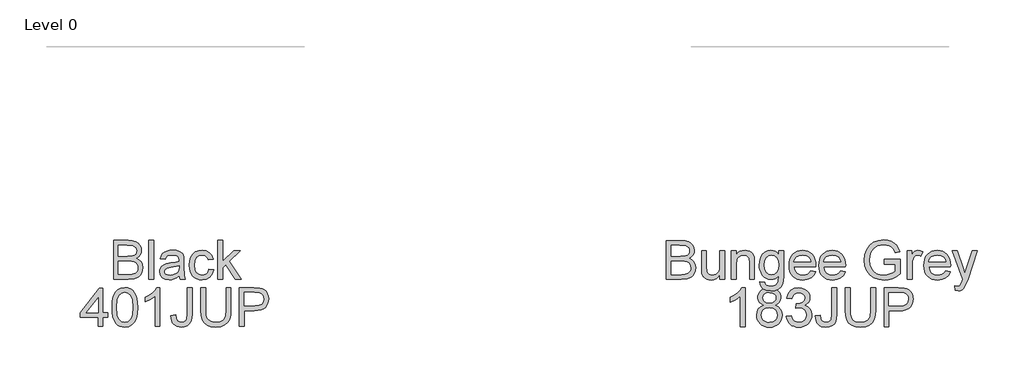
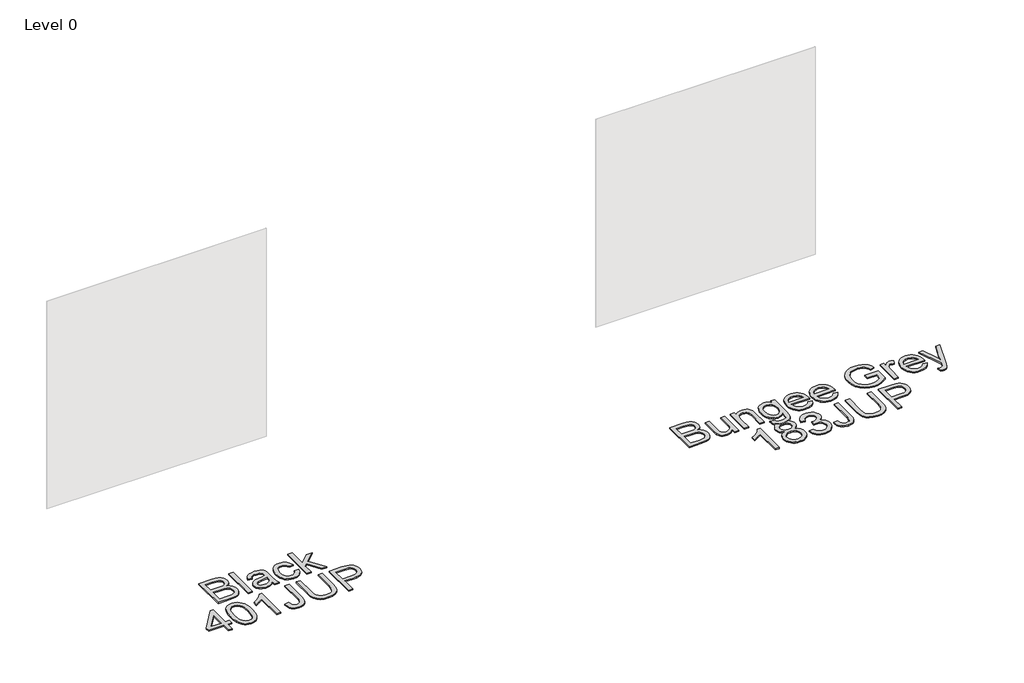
# One storey, part 33 of 37: 2 proxies.
"""IFC4 building model written with IfcOpenShell, lengths in millimetres."""

from ifc_helpers import new_model, si_unit, origin, origin_with_axes, place, context, project, spatial, polyline, outline, extrude, element, save

model = new_model("IFC4")

# Units and contexts
model_context = context("Model", 3, world=origin())
ifc_project = project(units=[si_unit("LENGTHUNIT", "METRE", prefix="MILLI")], contexts=[model_context])

# Site, building, storey
site = spatial("IfcSite", under=ifc_project)
building = spatial("IfcBuilding", under=site)
storey = spatial("IfcBuildingStorey", under=building, Name="Level 0", Elevation=0.0)

# Proxies
placement = place(None, origin())
element("IfcBuildingElementProxy", 1, Name="300mm Arial", ObjectType="300mm Arial", at=placement, inside=storey, context=model_context, shape_type="SweptSolid", body=[
    extrude(outline(polyline([(33069.0352108, -26963.860494), (33069.0352108, -26662.4915635), (33184.0351225, -26662.4915635), (33215.663777, -26664.7080526), (33240.3578559, -26671.3575196), (33259.2853846, -26682.6055116), (33273.6143883, -26698.6175755), (33282.6366942, -26717.4531336), (33285.6441296, -26737.1716086), (33283.1149408, -26755.317388), (33275.5273747, -26772.3779155), (33262.8262488, -26787.3047274), (33244.9563809, -26799.0493601), (33266.3027337, -26810.1961846), (33282.0756742, -26827.1555446), (33291.81535, -26848.8054), (33295.0619086, -26874.0237108), (33292.8454196, -26895.0389697), (33286.1959525, -26914.5275184), (33276.2723357, -26931.1006023), (33264.2333974, -26943.3694668), (33249.4905265, -26952.253817), (33231.4551117, -26958.6733578), (33183.1522057, -26963.860494), (33069.0352108, -26963.860494)]), holes=[polyline([(33106.7063271, -26784.9226915), (33175.5002602, -26784.9226915), (33215.6729741, -26781.68533), (33229.7352633, -26776.1027207), (33239.8428212, -26767.7426024), (33245.9404652, -26756.7337336), (33247.9730132, -26743.2048733), (33246.078421, -26730.071486), (33240.3946441, -26718.630356), (33231.1792002, -26709.7000206), (33218.6896064, -26704.0990172), (33170.2763359, -26700.1626798), (33106.7063271, -26700.1626798), (33106.7063271, -26784.9226915)]), polyline([(33106.7063271, -26926.1893777), (33183.9615461, -26926.1893777), (33211.9205777, -26924.7178497), (33235.57539, -26916.5140812), (33251.247163, -26899.7754504), (33255.854885, -26887.9480443), (33257.3907923, -26874.3915928), (33255.5881705, -26858.6462434), (33250.1803052, -26845.1081859), (33240.734935, -26834.5223815), (33226.8197985, -26827.6337912), (33207.1105206, -26823.8538037), (33180.2827261, -26822.5938078), (33106.7063271, -26822.5938078), (33106.7063271, -26926.1893777)])]), origin_with_axes(), (0.0, 0.0, 1.0), 10.0),
    extrude(outline(polyline([(33342.150804, -26963.860494), (33342.150804, -26662.4915635), (33379.8219203, -26662.4915635), (33379.8219203, -26963.860494), (33342.150804, -26963.860494)])), origin_with_axes(), (0.0, 0.0, 1.0), 10.0),
    extrude(outline(polyline([(33577.5952809, -26935.6071568), (33559.5966543, -26951.0398064), (33541.0645988, -26961.1381672), (33521.5760501, -26966.7115794), (33500.7079439, -26968.5693835), (33469.2264422, -26964.0996173), (33446.0038912, -26950.6903186), (33431.6840846, -26930.3280501), (33426.9108157, -26904.9993748), (33428.7134375, -26889.3827841), (33434.1213028, -26875.2009331), (33442.463027, -26863.0608273), (33453.0672256, -26853.5694718), (33479.4443646, -26841.2086368), (33512.0387094, -26835.5432541), (33550.5559543, -26829.5835657), (33577.3745517, -26822.5938078), (33577.5952809, -26814.2060983), (33575.0017129, -26797.3938912), (33567.2210087, -26786.3942195), (33549.8201903, -26778.2272392), (33525.5767668, -26775.5049125), (33503.1359651, -26777.3167313), (33487.4641921, -26782.7521878), (33476.7772201, -26792.8045633), (33469.2908215, -26808.4671392), (33431.6197052, -26803.7582497), (33438.1588077, -26783.156858), (33447.9168776, -26766.9700502), (33461.8044229, -26754.590821), (33480.7319516, -26745.4121652), (33503.8809261, -26739.7283884), (33530.4328091, -26737.8337961), (33555.8994403, -26739.5076592), (33576.0869647, -26744.5292485), (33591.3080823, -26752.0800264), (33601.8754926, -26761.3414556), (33608.8836446, -26772.7917827), (33613.4269873, -26786.9092543), (33615.2663972, -26819.8714811), (33615.2663972, -26866.7396473), (33617.1793836, -26932.1858542), (33624.6841763, -26963.860494), (33587.01306, -26963.860494), (33577.5952809, -26935.6071568)]), holes=[polyline([(33577.5952809, -26860.2649241), (33516.8211753, -26871.8164188), (33484.4107715, -26877.9232599), (33469.7322799, -26887.8560738), (33464.581932, -26902.3506244), (33467.3870322, -26913.5526311), (33475.8023329, -26922.7312869), (33489.6438929, -26928.8565221), (33508.7277714, -26930.8982672), (33528.9612812, -26928.64499), (33546.8403461, -26921.8851583), (33561.3348967, -26911.9247533), (33571.4148634, -26900.069756), (33575.8846296, -26887.8560738), (33577.3745517, -26870.933502), (33577.5952809, -26860.2649241)])]), origin_with_axes(), (0.0, 0.0, 1.0), 10.0),
    extrude(outline(polyline([(33808.3308683, -26883.8093718), (33846.0019846, -26888.5182614), (33835.4989536, -26922.0231141), (33815.7620846, -26947.3425924), (33788.6491816, -26963.2626857), (33756.0180486, -26968.5693835), (33734.8901257, -26966.7184772), (33715.9465023, -26961.1657584), (33699.1871781, -26951.9112269), (33684.6121533, -26938.9548829), (33672.8146376, -26922.5404481), (33664.3878406, -26902.9116444), (33659.3317625, -26880.0684718), (33657.6464031, -26854.0109302), (33660.5250797, -26820.4876834), (33669.1611095, -26791.4342028), (33683.6924483, -26767.9725286), (33704.2570519, -26751.2247008), (33728.8591603, -26741.1815223), (33755.5030138, -26737.8337961), (33787.3340034, -26742.4323211), (33812.7822404, -26756.2278959), (33831.0383844, -26778.4847566), (33841.2930951, -26808.4671392), (33803.6219788, -26813.1760288), (33796.7885707, -26796.7409006), (33786.147584, -26784.9594797), (33772.2876298, -26777.8685543), (33755.7973194, -26775.5049125), (33731.4527284, -26780.1586197), (33712.1297266, -26794.1197414), (33699.5205712, -26818.1424357), (33695.3175194, -26852.9808606), (33699.4286007, -26888.2883351), (33711.7618446, -26912.3938029), (33730.7353585, -26926.2721511), (33754.7672498, -26930.8982672), (33774.2741926, -26928.0103936), (33790.2678623, -26919.3467726), (33801.9021304, -26904.6866751), (33808.3308683, -26883.8093718)])), origin_with_axes(), (0.0, 0.0, 1.0), 10.0),
    extrude(outline(polyline([(33878.9642114, -26963.860494), (33878.9642114, -26662.4915635), (33916.6353277, -26662.4915635), (33916.6353277, -26824.4332178), (34001.1010338, -26742.5426857), (34053.1931243, -26742.5426857), (33967.6973486, -26825.4632874), (34057.9020138, -26963.860494), (34013.9033272, -26963.860494), (33940.6948102, -26851.6564855), (33916.6353277, -26874.9802039), (33916.6353277, -26963.860494), (33878.9642114, -26963.860494)])), origin_with_axes(), (0.0, 0.0, 1.0), 10.0),
    extrude(outline(polyline([(32948.9585276, -27329.7849475), (32948.9585276, -27259.1516044), (32812.400731, -27259.1516044), (32812.400731, -27221.4804881), (32958.3763066, -27033.1249066), (32986.6296439, -27033.1249066), (32986.6296439, -27221.4804881), (33024.3007602, -27221.4804881), (33024.3007602, -27259.1516044), (32986.6296439, -27259.1516044), (32986.6296439, -27329.7849475), (32948.9585276, -27329.7849475)]), holes=[polyline([(32948.9585276, -27221.4804881), (32948.9585276, -27105.0826249), (32858.7538623, -27221.4804881), (32948.9585276, -27221.4804881)])]), origin_with_axes(), (0.0, 0.0, 1.0), 10.0),
    extrude(outline(polyline([(33057.2629869, -27181.5285035), (33060.031299, -27133.2899768), (33068.336235, -27094.8187172), (33082.0950216, -27065.5261133), (33101.2248854, -27044.8235541), (33125.863782, -27032.5179013), (33156.1496672, -27028.4160171), (33179.3630211, -27030.8440382), (33200.1483539, -27038.1281017), (33217.5307781, -27049.983099), (33230.5354067, -27066.1239216), (33240.3578559, -27086.4126136), (33248.1937424, -27110.7112194), (33253.3256963, -27141.5673217), (33255.0363476, -27181.5285035), (33252.2956267, -27229.4911186), (33244.0734641, -27267.8704077), (33230.3974509, -27297.1906027), (33211.2951783, -27317.9759355), (33186.6010994, -27330.3643617), (33156.1496672, -27334.4938371), (33135.4011227, -27332.7004123), (33117.007023, -27327.3201381), (33100.967368, -27318.3530145), (33087.2821578, -27305.7990414), (33074.1487705, -27283.1053209), (33064.7677796, -27254.828991), (33059.1391851, -27220.9700519), (33057.2629869, -27181.5285035)]), holes=[polyline([(33094.9341033, -27181.4549271), (33099.3486872, -27240.7115194), (33104.8669171, -27260.9795181), (33112.592439, -27275.0073184), (33132.310914, -27291.3688702), (33156.1496672, -27296.8227207), (33179.9884205, -27291.3504761), (33199.7068955, -27274.933742), (33207.4324174, -27260.8829491), (33212.9506473, -27240.6195489), (33217.3652312, -27181.4549271), (33213.0978001, -27123.5319069), (33207.7635112, -27103.3305869), (33200.2955067, -27088.9693935), (33180.6138199, -27071.8076984), (33155.7082089, -27066.0871334), (33132.126973, -27071.1271167), (33113.1810502, -27086.2470667), (33105.1980109, -27101.8820515), (33099.49584, -27122.9616898), (33094.9341033, -27181.4549271)])]), origin_with_axes(), (0.0, 0.0, 1.0), 10.0),
    extrude(outline(polyline([(33429.2652605, -27329.7849475), (33391.5941442, -27329.7849475), (33391.5941442, -27094.9290818), (33355.9095906, -27120.3497277), (33316.2519115, -27139.3692268), (33316.2519115, -27103.7582497), (33345.838821, -27087.6634124), (33371.470999, -27068.5151545), (33391.6769176, -27048.1528861), (33404.9850488, -27028.4160171), (33429.2652605, -27028.4160171), (33429.2652605, -27329.7849475)])), origin_with_axes(), (0.0, 0.0, 1.0), 10.0),
    extrude(outline(polyline([(33514.0252722, -27245.1720886), (33551.6963885, -27240.3160463), (33555.6143317, -27267.7048608), (33564.5722583, -27284.8297677), (33578.2574685, -27293.8244825), (33596.3572627, -27296.8227207), (33610.2723991, -27295.1212665), (33622.1457905, -27290.0169038), (33631.3060522, -27281.9786822), (33637.0817995, -27271.4756513), (33641.1652897, -27234.1356288), (33641.1652897, -27028.4160171), (33678.836406, -27028.4160171), (33678.836406, -27233.4734412), (33676.5647347, -27267.0150821), (33669.7497207, -27292.0034666), (33657.995891, -27310.2596106), (33640.9077723, -27323.60453), (33619.4510549, -27331.7715103), (33594.5914291, -27334.4938371), (33559.7713983, -27328.8744396), (33545.8240721, -27321.8501927), (33534.1852055, -27312.0162471), (33525.061732, -27299.409391), (33518.6605853, -27284.0664126), (33514.0252722, -27245.1720886)])), origin_with_axes(), (0.0, 0.0, 1.0), 10.0),
    extrude(outline(polyline([(33942.5342201, -27028.4160171), (33980.2053364, -27028.4160171), (33980.2053364, -27202.277048), (33977.6485566, -27242.9923878), (33969.978217, -27274.3451308), (33955.6492133, -27298.533372), (33933.1164411, -27317.7552063), (33902.3247181, -27330.3091794), (33863.218862, -27334.4938371), (33824.9683315, -27330.8518053), (33794.3881407, -27319.92571), (33771.4690924, -27302.0926303), (33756.2019896, -27277.7296452), (33747.621142, -27245.052527), (33744.7608595, -27202.277048), (33744.7608595, -27028.4160171), (33782.4319758, -27028.4160171), (33782.4319758, -27200.9526728), (33784.2897799, -27234.8070134), (33789.8631921, -27258.3790523), (33799.9615529, -27274.7038158), (33815.3942026, -27286.8163305), (33835.5173477, -27294.3211232), (33859.6871948, -27296.8227207), (33898.0021046, -27291.8747079), (33912.3449039, -27285.6896919), (33923.4779328, -27277.0306694), (33931.8150585, -27264.8537754), (33937.7701483, -27248.1151446), (33942.5342201, -27200.9526728), (33942.5342201, -27028.4160171)])), origin_with_axes(), (0.0, 0.0, 1.0), 10.0),
    extrude(outline(polyline([(34046.12979, -27329.7849475), (34046.12979, -27028.4160171), (34157.8187637, -27028.4160171), (34202.8475199, -27031.2854966), (34222.9246798, -27036.6473767), (34239.4517784, -27045.375377), (34252.7599096, -27057.8649708), (34263.1801671, -27074.5116311), (34269.9124076, -27094.1473326), (34272.1564878, -27115.6040499), (34270.6412738, -27134.1039158), (34266.0956319, -27151.1230566), (34258.5195621, -27166.6614723), (34247.9130643, -27180.7191631), (34233.3518351, -27192.3718253), (34213.9115709, -27200.6951554), (34189.5922718, -27205.6891535), (34160.3939377, -27207.3538195), (34083.8009063, -27207.3538195), (34083.8009063, -27329.7849475), (34046.12979, -27329.7849475)]), holes=[polyline([(34083.8009063, -27169.6827032), (34162.6012297, -27169.6827032), (34196.0049148, -27166.2246125), (34218.0778345, -27155.8503402), (34230.3834873, -27139.2036799), (34234.4853715, -27116.9284251), (34232.0665474, -27100.0058533), (34224.810075, -27085.7320319), (34213.6172653, -27074.9898777), (34199.3894292, -27068.6623073), (34161.7183129, -27066.0871334), (34083.8009063, -27066.0871334), (34083.8009063, -27169.6827032)])]), origin_with_axes(), (0.0, 0.0, 1.0), 10.0),
])
element("IfcBuildingElementProxy", 2, Name="300mm Arial", ObjectType="300mm Arial", at=placement, inside=storey, context=model_context, shape_type="SweptSolid", body=[
    extrude(outline(polyline([(37357.9928905, -26964.860494), (37357.9928905, -26663.4915635), (37472.9928022, -26663.4915635), (37504.6214567, -26665.7080526), (37529.3155357, -26672.3575196), (37548.2430643, -26683.6055116), (37562.572068, -26699.6175755), (37571.594374, -26718.4531336), (37574.6018093, -26738.1716086), (37572.0726206, -26756.317388), (37564.4850544, -26773.3779155), (37551.7839285, -26788.3047274), (37533.9140606, -26800.0493601), (37555.2604134, -26811.1961846), (37571.0333539, -26828.1555446), (37580.7730297, -26849.8054), (37584.0195883, -26875.0237108), (37581.8030993, -26896.0389697), (37575.1536323, -26915.5275184), (37565.2300154, -26932.1006023), (37553.1910772, -26944.3694668), (37538.4482062, -26953.253817), (37520.4127914, -26959.6733578), (37472.1098854, -26964.860494), (37357.9928905, -26964.860494)]), holes=[polyline([(37395.6640068, -26785.9226915), (37464.4579399, -26785.9226915), (37504.6306538, -26782.68533), (37518.6929431, -26777.1027207), (37528.8005009, -26768.7426024), (37534.8981449, -26757.7337336), (37536.930693, -26744.2048733), (37535.0361007, -26731.071486), (37529.3523239, -26719.630356), (37520.1368799, -26710.7000206), (37507.6472862, -26705.0990172), (37459.2340156, -26701.1626798), (37395.6640068, -26701.1626798), (37395.6640068, -26785.9226915)]), polyline([(37395.6640068, -26927.1893777), (37472.9192258, -26927.1893777), (37500.8782574, -26925.7178497), (37524.5330697, -26917.5140812), (37540.2048427, -26900.7754504), (37544.8125647, -26888.9480443), (37546.348472, -26875.3915928), (37544.5458503, -26859.6462434), (37539.1379849, -26846.1081859), (37529.6926147, -26835.5223815), (37515.7774782, -26828.6337912), (37496.0682004, -26824.8538037), (37469.2404059, -26823.5938078), (37395.6640068, -26823.5938078), (37395.6640068, -26927.1893777)])]), origin_with_axes(), (0.0, 0.0, 1.0), 10.0),
    extrude(outline(polyline([(37772.3751699, -26964.860494), (37772.3751699, -26926.8214957), (37758.745142, -26945.5236966), (37742.8710339, -26958.8824116), (37724.7528456, -26966.8976405), (37704.3905772, -26969.5693835), (37686.0424627, -26967.6931853), (37668.963541, -26962.0645908), (37654.6345373, -26953.6033049), (37644.5361766, -26943.2290327), (37633.3157757, -26915.4907302), (37631.1084837, -26880.4683643), (37631.1084837, -26743.5426857), (37668.7796, -26743.5426857), (37668.7796, -26862.7364521), (37671.0604684, -26901.1433324), (37676.5511072, -26913.9548229), (37685.9596892, -26923.6944987), (37698.6608151, -26929.8473251), (37714.0290854, -26931.8982672), (37730.2802726, -26929.8013398), (37745.482996, -26923.5105577), (37758.018575, -26913.605335), (37766.2683288, -26900.6650858), (37770.8484596, -26882.9423707), (37772.3751699, -26858.6897502), (37772.3751699, -26743.5426857), (37810.0462862, -26743.5426857), (37810.0462862, -26964.860494), (37772.3751699, -26964.860494)])), origin_with_axes(), (0.0, 0.0, 1.0), 10.0),
    extrude(outline(polyline([(37861.8440711, -26964.860494), (37861.8440711, -26743.5426857), (37899.5151874, -26743.5426857), (37899.5151874, -26774.4447733), (37912.6025894, -26758.8649708), (37928.3203476, -26747.7365404), (37946.6684621, -26741.0594822), (37967.6469329, -26738.8337961), (37986.2157766, -26740.6272209), (38003.2211219, -26746.0074951), (38017.4029728, -26754.303234), (38027.5013335, -26764.8430532), (38038.7953108, -26792.5445674), (38040.7818736, -26828.964885), (38040.7818736, -26964.860494), (38003.1107573, -26964.860494), (38003.1107573, -26834.0416565), (37998.7697497, -26800.7115477), (37992.7640761, -26790.7879309), (37983.4290705, -26783.0900002), (37971.4637086, -26778.1511844), (37957.5669663, -26776.5049125), (37935.5032436, -26780.2021265), (37916.6952766, -26791.2937687), (37909.1789876, -26800.3482643), (37903.8102097, -26812.7228949), (37899.5151874, -26847.4325611), (37899.5151874, -26964.860494), (37861.8440711, -26964.860494)])), origin_with_axes(), (0.0, 0.0, 1.0), 10.0),
    extrude(outline(polyline([(38083.1618794, -26983.6960521), (38120.8329957, -26988.4049417), (38124.9900623, -27000.1771655), (38133.046678, -27008.2705694), (38148.8839978, -27014.5613515), (38169.6141483, -27016.6582789), (38191.7238562, -27014.28544), (38208.1681814, -27007.1669234), (38219.5725232, -26995.7625816), (38226.5622811, -26980.532267), (38229.1374551, -26936.6071568), (38216.6018761, -26948.9679918), (38202.6131632, -26957.7971597), (38187.1713165, -26963.0946604), (38170.2763359, -26964.860494), (38149.6220611, -26962.8049533), (38131.4371942, -26956.6383314), (38115.7217352, -26946.3606281), (38102.4756842, -26931.9718436), (38091.9657554, -26914.708981), (38084.4586634, -26895.8090435), (38079.9544083, -26875.2720311), (38078.4529899, -26853.0979438), (38081.1477255, -26822.6832999), (38089.2319323, -26794.7150712), (38102.4205019, -26771.0142737), (38120.4283255, -26753.4019232), (38142.639201, -26742.4758279), (38168.4369259, -26738.8337961), (38186.0538749, -26740.8939353), (38202.0429461, -26747.0743528), (38216.4041395, -26757.3750487), (38229.1374551, -26771.7960229), (38229.1374551, -26743.5426857), (38266.8085714, -26743.5426857), (38266.8085714, -26934.620594), (38264.2333974, -26978.7388422), (38256.5078755, -27007.7923228), (38243.1997444, -27027.0601423), (38223.8767426, -27041.8214074), (38198.9619344, -27051.2023982), (38168.8783843, -27054.3293952), (38133.8284272, -27049.9240083), (38106.2280805, -27036.7078476), (38095.8331149, -27026.7865301), (38088.5237595, -27014.644125), (38084.3000143, -27000.2806323), (38083.1618794, -26983.6960521)]), holes=[polyline([(38116.1241062, -26850.5227699), (38120.143217, -26885.0760863), (38132.2005494, -26908.8320661), (38150.3279347, -26922.6000498), (38172.5572042, -26927.1893777), (38194.6209269, -26922.6276409), (38212.8402827, -26908.9424307), (38225.063162, -26885.4899535), (38229.1374551, -26851.6264159), (38224.9436003, -26818.9676917), (38212.3620361, -26795.4508352), (38193.8759659, -26781.2413931), (38171.968593, -26776.5049125), (38150.4566934, -26781.1678167), (38132.4212786, -26795.1565296), (38120.1983993, -26818.3238983), (38116.1241062, -26850.5227699)])]), origin_with_axes(), (0.0, 0.0, 1.0), 10.0),
    extrude(outline(polyline([(38478.2671422, -26898.9360404), (38515.2024945, -26903.64493), (38501.8943634, -26931.4752029), (38480.6583752, -26952.2789297), (38451.9727766, -26965.2467701), (38416.3158142, -26969.5693835), (38392.941512, -26967.7046817), (38372.1147925, -26962.1105761), (38353.8356559, -26952.7870668), (38338.1041021, -26939.7341537), (38325.45356, -26923.3151204), (38316.4174584, -26903.8932503), (38310.9957975, -26881.4685435), (38309.1885772, -26856.0409998), (38311.0141916, -26829.7512327), (38316.4910348, -26806.5792656), (38325.6191069, -26786.5250983), (38338.3984077, -26769.5887309), (38354.0885748, -26756.133447), (38371.9492456, -26746.5225298), (38391.9804203, -26740.7559796), (38414.1820987, -26738.8337961), (38435.6687064, -26740.751381), (38455.0997736, -26746.5041357), (38472.4753001, -26756.0920602), (38487.7952859, -26769.5151545), (38500.3009745, -26786.4147337), (38509.2336092, -26806.4321128), (38514.59319, -26829.5672917), (38516.3797169, -26855.8202706), (38516.1589877, -26865.9738137), (38346.8596935, -26865.9738137), (38353.3804019, -26894.1719686), (38368.5279431, -26914.902119), (38390.3893306, -26927.6492302), (38417.0515782, -26931.8982672), (38437.101147, -26929.9300985), (38453.9869305, -26924.0255925), (38467.708929, -26913.8168672), (38478.2671422, -26898.9360404)]), holes=[polyline([(38346.8596935, -26828.3026974), (38478.7086006, -26828.3026974), (38473.613435, -26808.4002814), (38463.6254388, -26794.1632482), (38441.6628837, -26780.9194964), (38414.0349459, -26776.5049125), (38388.6418911, -26780.0273826), (38367.6450263, -26790.5947929), (38353.0493081, -26807.0667092), (38346.8596935, -26828.3026974)])]), origin_with_axes(), (0.0, 0.0, 1.0), 10.0),
    extrude(outline(polyline([(38709.0027296, -26898.9360404), (38745.9380819, -26903.64493), (38732.6299507, -26931.4752029), (38711.3939626, -26952.2789297), (38682.708364, -26965.2467701), (38647.0514016, -26969.5693835), (38623.6770993, -26967.7046817), (38602.8503799, -26962.1105761), (38584.5712433, -26952.7870668), (38568.8396894, -26939.7341537), (38556.1891473, -26923.3151204), (38547.1530458, -26903.8932503), (38541.7313849, -26881.4685435), (38539.9241646, -26856.0409998), (38541.749779, -26829.7512327), (38547.2266222, -26806.5792656), (38556.3546942, -26786.5250983), (38569.133995, -26769.5887309), (38584.8241621, -26756.133447), (38602.684833, -26746.5225298), (38622.7160076, -26740.7559796), (38644.917686, -26738.8337961), (38666.4042938, -26740.751381), (38685.835361, -26746.5041357), (38703.2108874, -26756.0920602), (38718.5308733, -26769.5151545), (38731.0365618, -26786.4147337), (38739.9691965, -26806.4321128), (38745.3287774, -26829.5672917), (38747.1153043, -26855.8202706), (38746.8945751, -26865.9738137), (38577.5952809, -26865.9738137), (38584.1159893, -26894.1719686), (38599.2635304, -26914.902119), (38621.124918, -26927.6492302), (38647.7871656, -26931.8982672), (38667.8367343, -26929.9300985), (38684.7225179, -26924.0255925), (38698.4445163, -26913.8168672), (38709.0027296, -26898.9360404)]), holes=[polyline([(38577.5952809, -26828.3026974), (38709.444188, -26828.3026974), (38704.3490224, -26808.4002814), (38694.3610262, -26794.1632482), (38672.3984711, -26780.9194964), (38644.7705332, -26776.5049125), (38619.3774785, -26780.0273826), (38598.3806137, -26790.5947929), (38583.7848955, -26807.0667092), (38577.5952809, -26828.3026974)])]), origin_with_axes(), (0.0, 0.0, 1.0), 10.0),
    extrude(outline(polyline([(39048.4842347, -26847.1382555), (39048.4842347, -26809.4671392), (39170.9153627, -26809.4671392), (39170.9153627, -26922.1126061), (39141.1629064, -26942.8059684), (39110.4723509, -26957.6500069), (39078.9172728, -26966.5895394), (39046.5712484, -26969.5693835), (39004.3108042, -26964.8329028), (38966.115456, -26950.6234608), (38934.3856339, -26927.437698), (38911.5217679, -26895.7722553), (38897.698602, -26857.7884393), (38893.09088, -26815.6475567), (38897.6802079, -26773.2031715), (38911.4481915, -26733.7202364), (38933.8246139, -26700.6016598), (38964.2392579, -26677.2503502), (39001.2849748, -26663.399593), (39043.554616, -26658.782674), (39074.5854623, -26661.4590155), (39102.4893116, -26669.4880401), (39125.9877741, -26682.2903335), (39143.8024597, -26699.2864817), (39156.9818322, -26721.295022), (39166.5743552, -26749.134492), (39131.8462949, -26758.9201531), (39124.0931818, -26739.0637224), (39114.6662057, -26724.0817281), (39102.195006, -26712.7877509), (39085.3092225, -26703.9953712), (39065.1768803, -26698.3391855), (39042.9660048, -26696.4537903), (39016.9659448, -26698.4863383), (38994.7366753, -26704.5839824), (38976.3609696, -26713.9833674), (38961.9216013, -26725.9211381), (38942.5342201, -26754.9470275), (38933.7050523, -26783.3843058), (38930.7619963, -26814.1024524), (38934.3028605, -26850.1272967), (38944.9254531, -26879.7693885), (38962.3078774, -26902.8171955), (38986.1282366, -26919.0591856), (39014.0044948, -26928.6884968), (39043.554616, -26931.8982672), (39069.6466465, -26929.4794431), (39095.0948835, -26922.2229707), (39117.1953944, -26912.2257775), (39133.2442464, -26901.5847908), (39133.2442464, -26847.1382555), (39048.4842347, -26847.1382555)])), origin_with_axes(), (0.0, 0.0, 1.0), 10.0),
    extrude(outline(polyline([(39227.4220372, -26964.860494), (39227.4220372, -26743.5426857), (39260.384264, -26743.5426857), (39260.384264, -26776.2841833), (39272.561158, -26757.3014723), (39283.7815589, -26746.1178596), (39295.0387479, -26740.654812), (39307.3260066, -26738.8337961), (39326.0879883, -26741.7400639), (39345.1442757, -26750.4588672), (39332.5627114, -26784.2304343), (39319.3189596, -26778.4362929), (39306.0752078, -26776.5049125), (39294.8272158, -26778.3627165), (39284.7748403, -26783.9361288), (39276.6538452, -26792.8020848), (39271.1999946, -26804.5375205), (39266.6198638, -26825.5803706), (39265.0931535, -26848.5362071), (39265.0931535, -26964.860494), (39227.4220372, -26964.860494)])), origin_with_axes(), (0.0, 0.0, 1.0), 10.0),
    extrude(outline(polyline([(39523.6406197, -26898.9360404), (39560.575972, -26903.64493), (39547.2678409, -26931.4752029), (39526.0318527, -26952.2789297), (39497.3462541, -26965.2467701), (39461.6892917, -26969.5693835), (39438.3149895, -26967.7046817), (39417.48827, -26962.1105761), (39399.2091334, -26952.7870668), (39383.4775796, -26939.7341537), (39370.8270374, -26923.3151204), (39361.7909359, -26903.8932503), (39356.369275, -26881.4685435), (39354.5620547, -26856.0409998), (39356.3876691, -26829.7512327), (39361.8645123, -26806.5792656), (39370.9925843, -26786.5250983), (39383.7718852, -26769.5887309), (39399.4620522, -26756.133447), (39417.3227231, -26746.5225298), (39437.3538978, -26740.7559796), (39459.5555762, -26738.8337961), (39481.0421839, -26740.751381), (39500.4732511, -26746.5041357), (39517.8487776, -26756.0920602), (39533.1687634, -26769.5151545), (39545.674452, -26786.4147337), (39554.6070867, -26806.4321128), (39559.9666675, -26829.5672917), (39561.7531944, -26855.8202706), (39561.5324652, -26865.9738137), (39392.233171, -26865.9738137), (39398.7538794, -26894.1719686), (39413.9014206, -26914.902119), (39435.7628081, -26927.6492302), (39462.4250557, -26931.8982672), (39482.4746245, -26929.9300985), (39499.360408, -26924.0255925), (39513.0824065, -26913.8168672), (39523.6406197, -26898.9360404)]), holes=[polyline([(39392.233171, -26828.3026974), (39524.0820781, -26828.3026974), (39518.9869125, -26808.4002814), (39508.9989163, -26794.1632482), (39487.0363612, -26780.9194964), (39459.4084234, -26776.5049125), (39434.0153686, -26780.0273826), (39413.0185038, -26790.5947929), (39398.4227856, -26807.0667092), (39392.233171, -26828.3026974)])]), origin_with_axes(), (0.0, 0.0, 1.0), 10.0),
    extrude(outline(polyline([(39599.4243107, -27049.6205057), (39594.7154212, -27013.3473409), (39613.8452849, -27016.6582789), (39631.7243499, -27012.5012124), (39642.6872334, -27000.9129295), (39652.9879292, -26973.1746271), (39655.9309852, -26964.0511536), (39575.879863, -26743.5426857), (39615.6111185, -26743.5426857), (39658.0647008, -26866.4152721), (39672.853557, -26915.5643066), (39687.6424132, -26872.1542312), (39731.2732178, -26743.5426857), (39770.7101677, -26743.5426857), (39693.6756779, -26970.1579947), (39673.6628974, -27019.3070293), (39663.4173838, -27034.9971964), (39651.8107068, -27045.8681093), (39638.3278317, -27052.2140737), (39622.4537236, -27054.3293952), (39599.4243107, -27049.6205057)])), origin_with_axes(), (0.0, 0.0, 1.0), 10.0),
    extrude(outline(polyline([(37967.7940857, -27330.7849475), (37930.1229694, -27330.7849475), (37930.1229694, -27095.9290818), (37894.4384159, -27121.3497277), (37854.7807368, -27140.3692268), (37854.7807368, -27104.7582497), (37884.3676463, -27088.6634124), (37909.9998243, -27069.5151545), (37930.2057429, -27049.1528861), (37943.513874, -27029.4160171), (37967.7940857, -27029.4160171), (37967.7940857, -27330.7849475)])), origin_with_axes(), (0.0, 0.0, 1.0), 10.0),
    extrude(outline(polyline([(38112.1509806, -27164.7965913), (38091.9818502, -27154.8637774), (38077.8275905, -27141.3992964), (38069.4674721, -27124.6790597), (38066.680766, -27104.9789789), (38068.1982793, -27089.6153071), (38072.7508189, -27075.5300252), (38080.3383851, -27062.7231332), (38090.9609777, -27051.1946312), (38104.1081605, -27041.6664875), (38119.2694972, -27034.8606706), (38155.6346325, -27029.4160171), (38192.2204969, -27034.9894293), (38207.5473805, -27041.9561946), (38220.8968984, -27051.709666), (38231.7126291, -27063.4634957), (38239.438151, -27076.4313361), (38244.0734641, -27090.613187), (38245.6185685, -27106.0090485), (38242.8686506, -27125.0745329), (38234.6188968, -27141.509661), (38220.7773368, -27154.8913686), (38201.2519999, -27164.7965913), (38224.4377626, -27176.7435591), (38241.3143491, -27194.3375155), (38251.6058479, -27216.732332), (38255.0363476, -27243.0818799), (38253.3348933, -27261.8714528), (38248.2305306, -27279.0975272), (38239.7232595, -27294.7601031), (38227.8130799, -27308.8591806), (38213.1253913, -27320.5118428), (38196.2855929, -27328.8351729), (38177.2936849, -27333.829171), (38156.1496672, -27335.4938371), (38135.0056496, -27333.8222732), (38116.0137416, -27328.8075818), (38099.1739432, -27320.4497627), (38084.4862546, -27308.748816), (38072.576075, -27294.5508703), (38064.0688039, -27278.702054), (38058.9644412, -27261.2023674), (38057.2629869, -27242.0518103), (38060.8314423, -27214.6813898), (38071.5368084, -27192.1670117), (38088.8272621, -27175.2812282), (38112.1509806, -27164.7965913)]), holes=[polyline([(38094.9341033, -27240.7274351), (38101.2248854, -27269.0911369), (38109.9344916, -27281.2588339), (38123.4817461, -27290.317928), (38139.7053421, -27295.9465226), (38156.4439728, -27297.8227207), (38182.0853479, -27293.8771864), (38201.3255763, -27282.0405832), (38213.3553175, -27264.1155329), (38217.3652312, -27241.9046575), (38213.2265588, -27219.316703), (38200.8105415, -27200.9961796), (38181.1288547, -27188.8560738), (38155.1931741, -27184.8093718), (38129.9104839, -27188.8008915), (38110.8633936, -27200.7754504), (38098.9164258, -27218.7464859), (38094.9341033, -27240.7274351)]), polyline([(38104.3518823, -27106.0826249), (38107.6904114, -27122.52695), (38117.7059988, -27135.6603373), (38134.1043387, -27144.268776), (38156.5911256, -27147.1382555), (38178.5536808, -27144.2871701), (38194.7037003, -27135.7339137), (38204.6365142, -27123.0419848), (38207.9474522, -27107.774882), (38204.5261496, -27091.9283651), (38194.2622419, -27078.822569), (38177.8914932, -27070.0209923), (38156.1496672, -27067.0871334), (38134.2698856, -27069.9566129), (38117.9267279, -27078.5650516), (38107.7455937, -27091.1834041), (38104.3518823, -27106.0826249)])]), origin_with_axes(), (0.0, 0.0, 1.0), 10.0),
    extrude(outline(polyline([(38287.9985743, -27250.7338254), (38325.6696906, -27246.0249358), (38334.1033854, -27269.6981422), (38346.4550234, -27285.6826149), (38363.3316099, -27294.7876943), (38385.3401502, -27297.8227207), (38411.1654663, -27293.6472601), (38431.1046704, -27281.1208782), (38443.8517816, -27262.4324728), (38448.1008186, -27239.7709419), (38443.8885698, -27218.2590422), (38431.2518232, -27200.8122386), (38412.1219595, -27189.2515469), (38388.430359, -27185.397983), (38362.0164317, -27189.5182614), (38366.2102865, -27151.8471451), (38372.2435512, -27152.2886035), (38394.8131116, -27149.5846708), (38414.9914391, -27141.4728728), (38429.2284723, -27127.7508744), (38433.97415, -27108.2163404), (38430.5344534, -27091.9467592), (38420.2153634, -27078.7489926), (38404.470014, -27070.0025982), (38384.7515391, -27067.0871334), (38364.9962759, -27070.0301893), (38348.8462563, -27078.8593572), (38337.0556384, -27093.574637), (38330.3785802, -27114.1760288), (38292.7074639, -27109.4671392), (38303.799106, -27075.6403898), (38323.5359751, -27050.3852908), (38350.5385135, -27034.6583355), (38383.4271639, -27029.4160171), (38407.1095673, -27032.0003881), (38428.8605903, -27039.7535011), (38447.1995077, -27051.9855775), (38460.6455947, -27068.0068384), (38468.8953484, -27086.4653175), (38471.6452663, -27106.0090485), (38469.0333041, -27124.2192072), (38461.1974176, -27140.7371088), (38448.2479714, -27154.8085951), (38430.2953301, -27165.6795081), (38453.8765659, -27175.2076518), (38471.3509607, -27191.4312477), (38482.1666914, -27213.4673793), (38485.7719349, -27240.4331295), (38483.9693132, -27259.5445992), (38478.5614478, -27277.1477526), (38469.5483389, -27293.2425899), (38456.9299865, -27307.829111), (38441.5571176, -27319.9324287), (38424.2804594, -27328.5776555), (38405.1000119, -27333.7647917), (38384.0157751, -27335.4938371), (38364.9594877, -27334.0177105), (38347.5954575, -27329.589331), (38331.9236845, -27322.2086985), (38317.9441687, -27311.875813), (38306.2225287, -27299.1976797), (38297.3243829, -27284.781304), (38291.2497315, -27268.6266859), (38287.9985743, -27250.7338254)])), origin_with_axes(), (0.0, 0.0, 1.0), 10.0),
    extrude(outline(polyline([(38514.0252722, -27246.1720886), (38551.6963885, -27241.3160463), (38555.6143317, -27268.7048608), (38564.5722583, -27285.8297677), (38578.2574685, -27294.8244825), (38596.3572627, -27297.8227207), (38610.2723991, -27296.1212665), (38622.1457905, -27291.0169038), (38631.3060522, -27282.9786822), (38637.0817995, -27272.4756513), (38641.1652897, -27235.1356288), (38641.1652897, -27029.4160171), (38678.836406, -27029.4160171), (38678.836406, -27234.4734412), (38676.5647347, -27268.0150821), (38669.7497207, -27293.0034666), (38657.995891, -27311.2596106), (38640.9077723, -27324.60453), (38619.4510549, -27332.7715103), (38594.5914291, -27335.4938371), (38559.7713983, -27329.8744396), (38545.8240721, -27322.8501927), (38534.1852055, -27313.0162471), (38525.061732, -27300.409391), (38518.6605853, -27285.0664126), (38514.0252722, -27246.1720886)])), origin_with_axes(), (0.0, 0.0, 1.0), 10.0),
    extrude(outline(polyline([(38942.5342201, -27029.4160171), (38980.2053364, -27029.4160171), (38980.2053364, -27203.277048), (38977.6485566, -27243.9923878), (38969.978217, -27275.3451308), (38955.6492133, -27299.533372), (38933.1164411, -27318.7552063), (38902.3247181, -27331.3091794), (38863.218862, -27335.4938371), (38824.9683315, -27331.8518053), (38794.3881407, -27320.92571), (38771.4690924, -27303.0926303), (38756.2019896, -27278.7296452), (38747.621142, -27246.052527), (38744.7608595, -27203.277048), (38744.7608595, -27029.4160171), (38782.4319758, -27029.4160171), (38782.4319758, -27201.9526728), (38784.2897799, -27235.8070134), (38789.8631921, -27259.3790523), (38799.9615529, -27275.7038158), (38815.3942026, -27287.8163305), (38835.5173477, -27295.3211232), (38859.6871948, -27297.8227207), (38898.0021046, -27292.8747079), (38912.3449039, -27286.6896919), (38923.4779328, -27278.0306694), (38931.8150585, -27265.8537754), (38937.7701483, -27249.1151446), (38942.5342201, -27201.9526728), (38942.5342201, -27029.4160171)])), origin_with_axes(), (0.0, 0.0, 1.0), 10.0),
    extrude(outline(polyline([(39046.12979, -27330.7849475), (39046.12979, -27029.4160171), (39157.8187637, -27029.4160171), (39202.8475199, -27032.2854966), (39222.9246798, -27037.6473767), (39239.4517784, -27046.375377), (39252.7599096, -27058.8649708), (39263.1801671, -27075.5116311), (39269.9124076, -27095.1473326), (39272.1564878, -27116.6040499), (39270.6412738, -27135.1039158), (39266.0956319, -27152.1230566), (39258.5195621, -27167.6614723), (39247.9130643, -27181.7191631), (39233.3518351, -27193.3718253), (39213.9115709, -27201.6951554), (39189.5922718, -27206.6891535), (39160.3939377, -27208.3538195), (39083.8009063, -27208.3538195), (39083.8009063, -27330.7849475), (39046.12979, -27330.7849475)]), holes=[polyline([(39083.8009063, -27170.6827032), (39162.6012297, -27170.6827032), (39196.0049148, -27167.2246125), (39218.0778345, -27156.8503402), (39230.3834873, -27140.2036799), (39234.4853715, -27117.9284251), (39232.0665474, -27101.0058533), (39224.810075, -27086.7320319), (39213.6172653, -27075.9898777), (39199.3894292, -27069.6623073), (39161.7183129, -27067.0871334), (39083.8009063, -27067.0871334), (39083.8009063, -27170.6827032)])]), origin_with_axes(), (0.0, 0.0, 1.0), 10.0),
])

save(model, "model.ifc")
